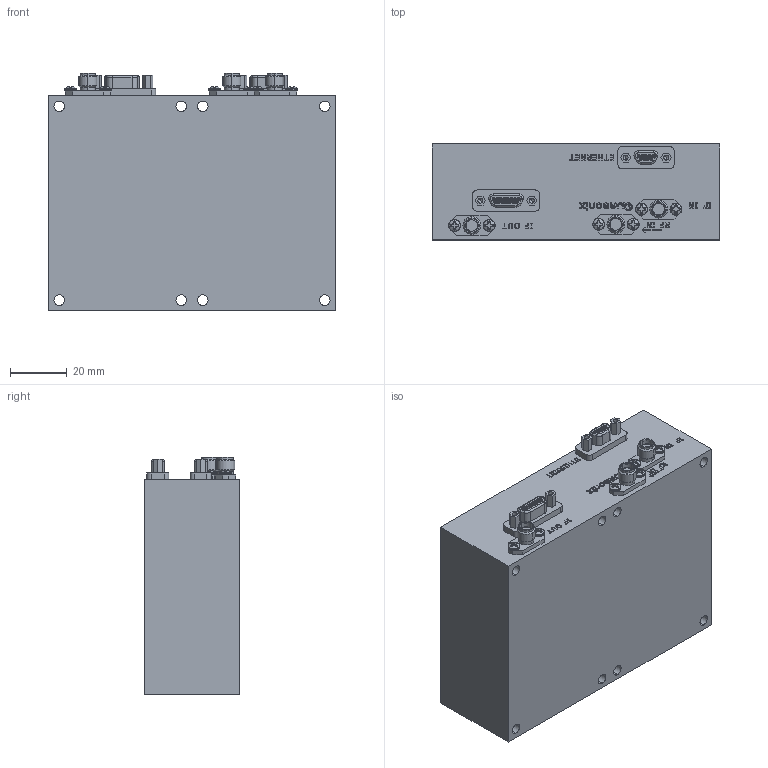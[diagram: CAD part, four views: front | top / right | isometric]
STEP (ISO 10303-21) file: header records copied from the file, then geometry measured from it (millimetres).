
FILE_DESCRIPTION (( 'STEP AP214' ), '1' );
FILE_NAME ('QS-RX-AB1A15EN.STEP', '2017-03-03T15:45:43', ( '' ), ( '' ), 'SwSTEP 2.0', 'SolidWorks 2016', '' );
FILE_SCHEMA (( 'AUTOMOTIVE_DESIGN' ));
Length unit declared in the file: inch
Products named in the file (1): QS-RX-AB1A15EN
Bounding box: 101.6 x 33.87 x 84.14 mm (x, y, z)
Volume: 261612.2 mm3; surface area: 34748.6 mm2
Topology: 16 solids, 16 shells, 1454 faces, 3765 edges, 2484 vertices
Faces by surface type: plane 764, cylinder 388, bspline 200, cone 56, torus 34, sphere 12
Entity records: 70808 total; most frequent: CARTESIAN_POINT 17036, ORIENTED_EDGE 7514, DIRECTION 6579, EDGE_CURVE 3757, VERTEX_POINT 2484, VECTOR 2261, LINE 2261, AXIS2_PLACEMENT_3D 2159
